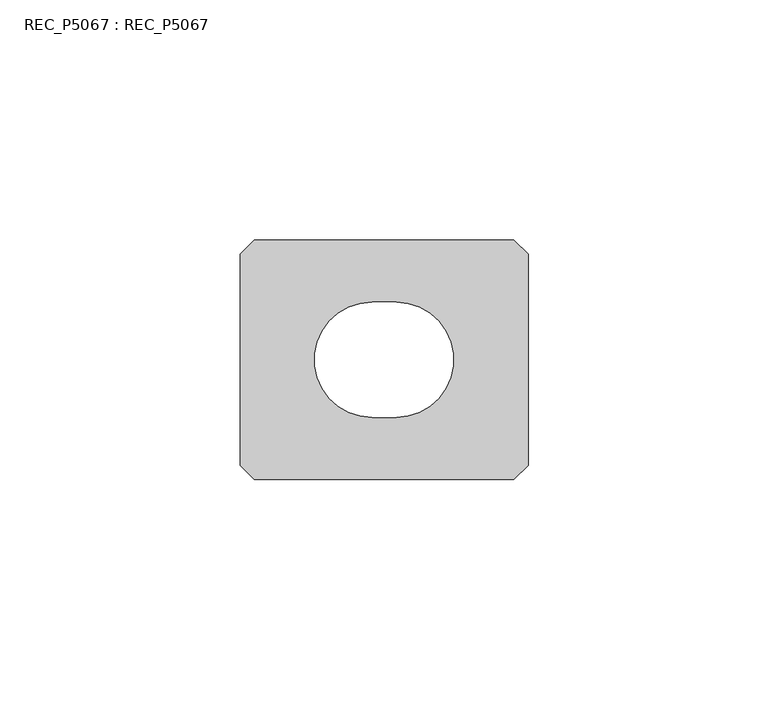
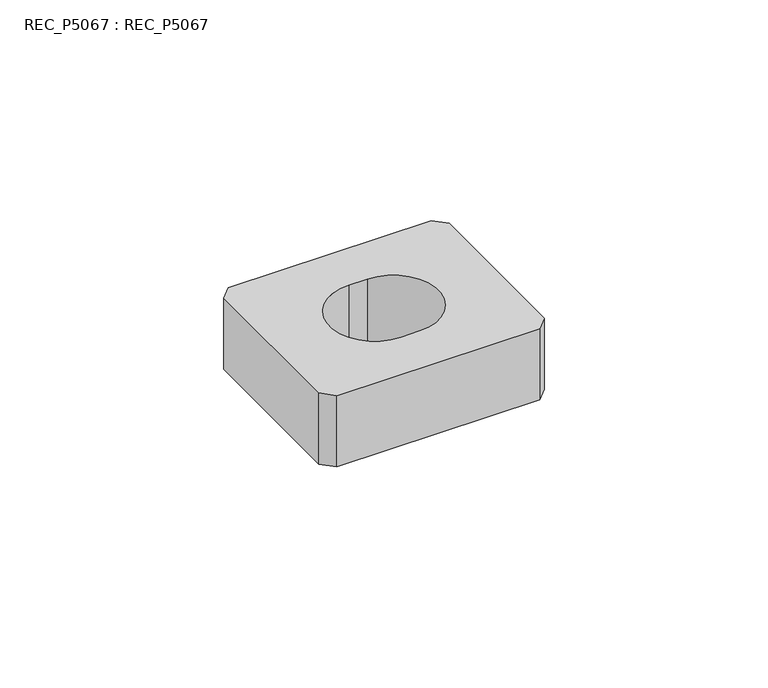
"""IFC4 building model written with IfcOpenShell, lengths in millimetres: fastener geometry, REC_P5067 : REC_P5067."""

from ifc_helpers import new_model, si_unit, point, frame_2d, origin, origin_with_axes, place, context, project, spatial, polyline, circle_curve, trimmed, segment, composite_curve, outline, extrude, source, transform, mapped, element, save


def rec_p5067_rec_p5067_4c9f34e2(model_context):
    return source(origin(), model_context, "Body", "SweptSolid", [
        extrude(outline(polyline([(27.0, -25.0), (-27.0, -25.0), (-30.0, -22.0), (-30.0, 22.0), (-27.0, 25.0), (27.0, 25.0), (30.0, 22.0), (30.0, -22.0), (27.0, -25.0)]), holes=[composite_curve([segment(trimmed(circle_curve(frame_2d((-2.5, 0.0)), 12.0), [point((-2.5, 12.0))], [point((-2.5, -12.0))], True, "CARTESIAN"), True, "CONTINUOUS"), segment(polyline([(-2.5, -12.0), (2.5, -12.0)]), True, "CONTINUOUS"), segment(trimmed(circle_curve(frame_2d((2.5, 0.0)), 12.0), [point((2.5, -12.0))], [point((2.5, 12.0))], True, "CARTESIAN"), True, "CONTINUOUS"), segment(polyline([(2.5, 12.0), (-2.5, 12.0)]), True, "CONTINUOUS")], self_intersect=False)]), origin_with_axes(), (0.0, 0.0, 1.0), 20.0),
    ])


if __name__ == "__main__":
    model = new_model("IFC4")
    model_context = context("Model", 3, world=origin())
    ifc_project = project(units=[si_unit("LENGTHUNIT", "METRE", prefix="MILLI")], contexts=[model_context])
    site = spatial("IfcSite", under=ifc_project)
    building = spatial("IfcBuilding", under=site)
    placement = place(None, origin())
    rec_p5067_rec_p5067_shape = rec_p5067_rec_p5067_4c9f34e2(model_context)
    element("IfcFastener", 1, ObjectType="REC_P5067 : REC_P5067", at=placement, inside=building, context=model_context, shape_type="MappedRepresentation", body=[
        mapped(rec_p5067_rec_p5067_shape, transform((0.0, 0.0, 0.0), x_axis=(1.0, 0.0, 0.0), y_axis=(0.0, 1.0, 0.0), z_axis=(0.0, 0.0, 1.0))),
    ])
    save(model, "model.ifc")
